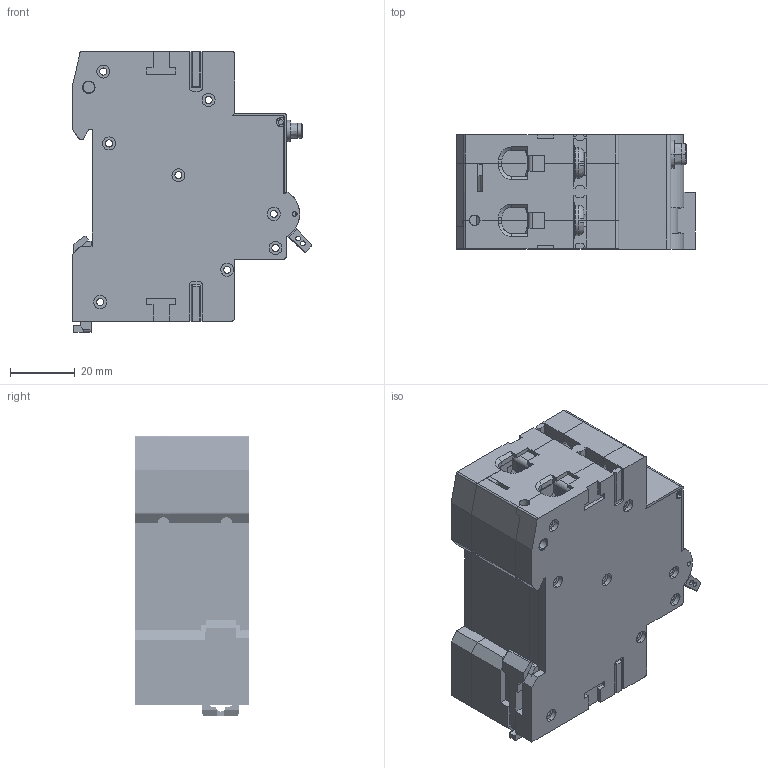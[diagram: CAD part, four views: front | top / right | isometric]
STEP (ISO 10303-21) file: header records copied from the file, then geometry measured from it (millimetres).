
FILE_DESCRIPTION (( 'STEP AP214' ), '1' );
FILE_NAME ('EVOKM2C2503.STEP', '2026-05-20T09:54:02', ( '' ), ( '' ), 'SwSTEP 2.0', 'SolidWorks 2025', '' );
FILE_SCHEMA (( 'AUTOMOTIVE_DESIGN' ));
Length unit declared in the file: millimetre
Products named in the file (1): EVOKM2C2503
Bounding box: 73.58 x 35.2 x 86.5 mm (x, y, z)
Surface area: 97995.3 mm2
Topology: 19 solids, 20 shells, 4126 faces, 12568 edges, 8679 vertices
Faces by surface type: plane 2895, cylinder 1008, bspline 187, cone 36
Entity records: 177637 total; most frequent: CARTESIAN_POINT 67376, ORIENTED_EDGE 25076, DIRECTION 18597, EDGE_CURVE 12538, VERTEX_POINT 8679, LINE 8263, VECTOR 8263, AXIS2_PLACEMENT_3D 5167
